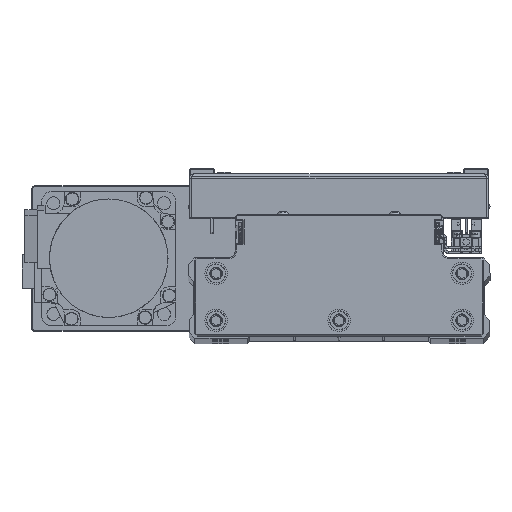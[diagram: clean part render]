
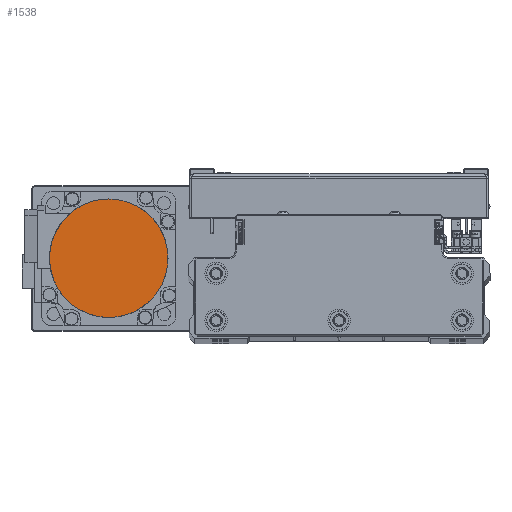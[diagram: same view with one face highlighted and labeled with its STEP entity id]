
A CAD part, top view. The second image highlights one B-rep face of the part: STEP entity #1538.
In plain terms, the highlighted planar face has unit normal (0, 0, 1) as drawn and (0, 0, -1) by its records, which use the part's own axes.
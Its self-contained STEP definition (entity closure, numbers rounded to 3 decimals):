
#427 = ORIENTED_EDGE ( 'NONE', *, *, #12248, .F. ) ;
#1538 = ADVANCED_FACE ( 'NONE', ( #5269 ), #19203, .F. ) ;
#1831 = DIRECTION ( 'NONE',  ( 0., 0., 1. ) ) ;
#2457 = B_SPLINE_CURVE_WITH_KNOTS ( 'NONE', 3,
 ( #44358, #13076, #27015, #40959, #9659, #23597, #37545, #6249, #20171, #34119, #2801, #16731, #30684, #44581, #13296, #27245, #41192, #9903, #23829, #37779, #6473, #20394, #34341, #3035, #16959, #30911, #44820, #13537, #27485, #41420, #10125, #24044, #38000, #6700 ),
 .UNSPECIFIED., .F., .F.,
 ( 4, 2, 2, 2, 2, 2, 2, 2, 2, 2, 2, 2, 2, 2, 2, 2, 4 ),
 ( 0., 0.063, 0.125, 0.188, 0.25, 0.312, 0.375, 0.437, 0.5, 0.562, 0.625, 0.687, 0.75, 0.813, 0.875, 0.938, 1. ),
 .UNSPECIFIED. ) ;
#2801 = CARTESIAN_POINT ( 'NONE',  ( -16.165, -21.07, -109.7 ) ) ;
#2918 = CARTESIAN_POINT ( 'NONE',  ( 13.28, 22.998, -109.7 ) ) ;
#3035 = CARTESIAN_POINT ( 'NONE',  ( 16.165, -21.07, -109.7 ) ) ;
#3146 = CARTESIAN_POINT ( 'NONE',  ( -17.512, 19.965, -109.7 ) ) ;
#5269 = FACE_OUTER_BOUND ( 'NONE', #19509, .T. ) ;
#6249 = CARTESIAN_POINT ( 'NONE',  ( -21.07, -16.165, -109.7 ) ) ;
#6363 = CARTESIAN_POINT ( 'NONE',  ( 19.965, 17.512, -109.7 ) ) ;
#6473 = CARTESIAN_POINT ( 'NONE',  ( 8.539, -25.147, -109.7 ) ) ;
#6581 = CARTESIAN_POINT ( 'NONE',  ( -11.744, 23.819, -109.7 ) ) ;
#6700 = CARTESIAN_POINT ( 'NONE',  ( 26.5, 0., -109.7 ) ) ;
#9523 = CARTESIAN_POINT ( 'NONE',  ( -26.5, 0., -109.7 ) ) ;
#9659 = CARTESIAN_POINT ( 'NONE',  ( -25.147, -8.539, -109.7 ) ) ;
#9782 = CARTESIAN_POINT ( 'NONE',  ( 23.819, 11.744, -109.7 ) ) ;
#9903 = CARTESIAN_POINT ( 'NONE',  ( 1.734, -26.5, -109.7 ) ) ;
#10014 = CARTESIAN_POINT ( 'NONE',  ( -3.469, 26.329, -109.7 ) ) ;
#10125 = CARTESIAN_POINT ( 'NONE',  ( 25.652, -6.871, -109.7 ) ) ;
#10234 = CARTESIAN_POINT ( 'NONE',  ( -26.329, 3.469, -109.7 ) ) ;
#12248 = EDGE_CURVE ( 'NONE', #25543, #35864, #2457, .T. ) ;
#13076 = CARTESIAN_POINT ( 'NONE',  ( -26.5, -1.734, -109.7 ) ) ;
#13079 = AXIS2_PLACEMENT_3D ( 'NONE', #33153, #1831, #15768 ) ;
#13184 = CARTESIAN_POINT ( 'NONE',  ( 26.329, 3.469, -109.7 ) ) ;
#13296 = CARTESIAN_POINT ( 'NONE',  ( -6.871, -25.652, -109.7 ) ) ;
#13414 = CARTESIAN_POINT ( 'NONE',  ( 3.469, 26.329, -109.7 ) ) ;
#13537 = CARTESIAN_POINT ( 'NONE',  ( 22.998, -13.28, -109.7 ) ) ;
#13645 = CARTESIAN_POINT ( 'NONE',  ( -23.819, 11.744, -109.7 ) ) ;
#15768 = DIRECTION ( 'NONE',  ( 1., 0., 0. ) ) ;
#16731 = CARTESIAN_POINT ( 'NONE',  ( -13.28, -22.998, -109.7 ) ) ;
#16844 = CARTESIAN_POINT ( 'NONE',  ( 11.744, 23.819, -109.7 ) ) ;
#16959 = CARTESIAN_POINT ( 'NONE',  ( 17.512, -19.965, -109.7 ) ) ;
#17074 = CARTESIAN_POINT ( 'NONE',  ( -19.965, 17.512, -109.7 ) ) ;
#18203 = ORIENTED_EDGE ( 'NONE', *, *, #44397, .F. ) ;
#19203 = PLANE ( 'NONE',  #13079 ) ;
#19509 = EDGE_LOOP ( 'NONE', ( #18203, #427 ) ) ;
#20171 = CARTESIAN_POINT ( 'NONE',  ( -19.965, -17.512, -109.7 ) ) ;
#20283 = CARTESIAN_POINT ( 'NONE',  ( 17.512, 19.965, -109.7 ) ) ;
#20394 = CARTESIAN_POINT ( 'NONE',  ( 11.744, -23.819, -109.7 ) ) ;
#20511 = CARTESIAN_POINT ( 'NONE',  ( -13.28, 22.998, -109.7 ) ) ;
#23597 = CARTESIAN_POINT ( 'NONE',  ( -23.819, -11.744, -109.7 ) ) ;
#23717 = CARTESIAN_POINT ( 'NONE',  ( 22.998, 13.28, -109.7 ) ) ;
#23829 = CARTESIAN_POINT ( 'NONE',  ( 3.469, -26.329, -109.7 ) ) ;
#23936 = CARTESIAN_POINT ( 'NONE',  ( -6.871, 25.652, -109.7 ) ) ;
#24044 = CARTESIAN_POINT ( 'NONE',  ( 26.329, -3.469, -109.7 ) ) ;
#24156 = CARTESIAN_POINT ( 'NONE',  ( -26.5, 1.734, -109.7 ) ) ;
#25543 = VERTEX_POINT ( 'NONE', #9523 ) ;
#25856 = CARTESIAN_POINT ( 'NONE',  ( 26.5, 0., -109.7 ) ) ;
#27015 = CARTESIAN_POINT ( 'NONE',  ( -26.329, -3.469, -109.7 ) ) ;
#27128 = CARTESIAN_POINT ( 'NONE',  ( 25.652, 6.871, -109.7 ) ) ;
#27245 = CARTESIAN_POINT ( 'NONE',  ( -3.469, -26.329, -109.7 ) ) ;
#27366 = CARTESIAN_POINT ( 'NONE',  ( 1.734, 26.5, -109.7 ) ) ;
#27485 = CARTESIAN_POINT ( 'NONE',  ( 23.819, -11.744, -109.7 ) ) ;
#27593 = CARTESIAN_POINT ( 'NONE',  ( -25.147, 8.539, -109.7 ) ) ;
#30568 = CARTESIAN_POINT ( 'NONE',  ( 26.5, 0., -109.7 ) ) ;
#30684 = CARTESIAN_POINT ( 'NONE',  ( -11.744, -23.819, -109.7 ) ) ;
#30792 = CARTESIAN_POINT ( 'NONE',  ( 8.539, 25.147, -109.7 ) ) ;
#30911 = CARTESIAN_POINT ( 'NONE',  ( 19.965, -17.512, -109.7 ) ) ;
#31026 = CARTESIAN_POINT ( 'NONE',  ( -21.07, 16.165, -109.7 ) ) ;
#31815 = B_SPLINE_CURVE_WITH_KNOTS ( 'NONE', 3,
 ( #30568, #44469, #13184, #27128, #41071, #9782, #23717, #37668, #6363, #20283, #34227, #2918, #16844, #30792, #44694, #13414, #27366, #41307, #10014, #23936, #37885, #6581, #20511, #34447, #3146, #17074, #31026, #44938, #13645, #27593, #41531, #10234, #24156, #38111 ),
 .UNSPECIFIED., .F., .F.,
 ( 4, 2, 2, 2, 2, 2, 2, 2, 2, 2, 2, 2, 2, 2, 2, 2, 4 ),
 ( 0., 0.062, 0.125, 0.187, 0.25, 0.312, 0.375, 0.437, 0.5, 0.562, 0.625, 0.687, 0.75, 0.813, 0.875, 0.938, 1. ),
 .UNSPECIFIED. ) ;
#33153 = CARTESIAN_POINT ( 'NONE',  ( 0., 0., -109.7 ) ) ;
#34119 = CARTESIAN_POINT ( 'NONE',  ( -17.512, -19.965, -109.7 ) ) ;
#34227 = CARTESIAN_POINT ( 'NONE',  ( 16.165, 21.07, -109.7 ) ) ;
#34341 = CARTESIAN_POINT ( 'NONE',  ( 13.28, -22.998, -109.7 ) ) ;
#34447 = CARTESIAN_POINT ( 'NONE',  ( -16.165, 21.07, -109.7 ) ) ;
#35864 = VERTEX_POINT ( 'NONE', #25856 ) ;
#37545 = CARTESIAN_POINT ( 'NONE',  ( -22.998, -13.28, -109.7 ) ) ;
#37668 = CARTESIAN_POINT ( 'NONE',  ( 21.07, 16.165, -109.7 ) ) ;
#37779 = CARTESIAN_POINT ( 'NONE',  ( 6.871, -25.652, -109.7 ) ) ;
#37885 = CARTESIAN_POINT ( 'NONE',  ( -8.539, 25.147, -109.7 ) ) ;
#38000 = CARTESIAN_POINT ( 'NONE',  ( 26.5, -1.734, -109.7 ) ) ;
#38111 = CARTESIAN_POINT ( 'NONE',  ( -26.5, 0., -109.7 ) ) ;
#40959 = CARTESIAN_POINT ( 'NONE',  ( -25.652, -6.871, -109.7 ) ) ;
#41071 = CARTESIAN_POINT ( 'NONE',  ( 25.147, 8.539, -109.7 ) ) ;
#41192 = CARTESIAN_POINT ( 'NONE',  ( -1.734, -26.5, -109.7 ) ) ;
#41307 = CARTESIAN_POINT ( 'NONE',  ( -1.734, 26.5, -109.7 ) ) ;
#41420 = CARTESIAN_POINT ( 'NONE',  ( 25.147, -8.539, -109.7 ) ) ;
#41531 = CARTESIAN_POINT ( 'NONE',  ( -25.652, 6.871, -109.7 ) ) ;
#44358 = CARTESIAN_POINT ( 'NONE',  ( -26.5, 0., -109.7 ) ) ;
#44397 = EDGE_CURVE ( 'NONE', #35864, #25543, #31815, .T. ) ;
#44469 = CARTESIAN_POINT ( 'NONE',  ( 26.5, 1.734, -109.7 ) ) ;
#44581 = CARTESIAN_POINT ( 'NONE',  ( -8.539, -25.147, -109.7 ) ) ;
#44694 = CARTESIAN_POINT ( 'NONE',  ( 6.871, 25.652, -109.7 ) ) ;
#44820 = CARTESIAN_POINT ( 'NONE',  ( 21.07, -16.165, -109.7 ) ) ;
#44938 = CARTESIAN_POINT ( 'NONE',  ( -22.998, 13.28, -109.7 ) ) ;
